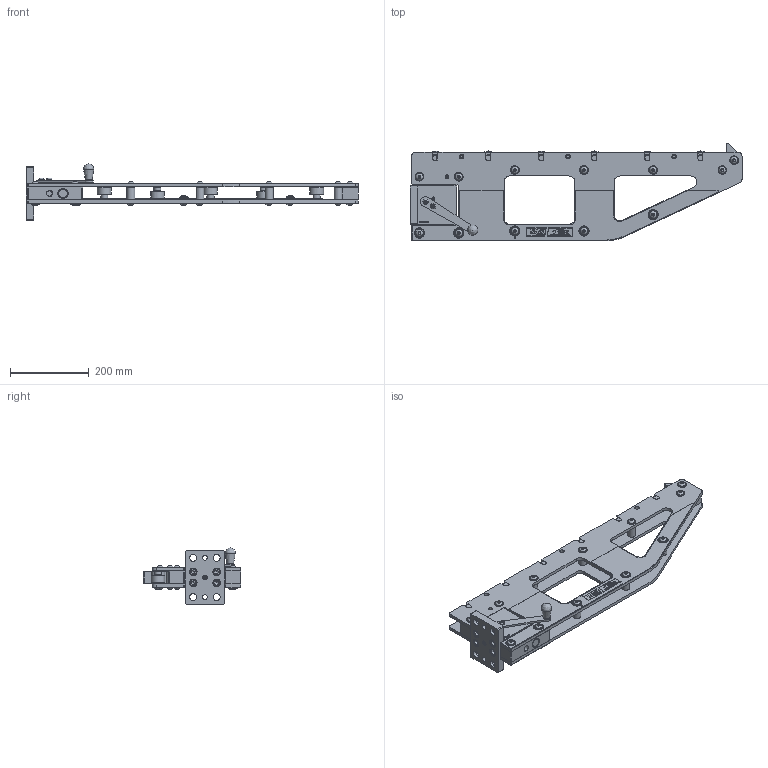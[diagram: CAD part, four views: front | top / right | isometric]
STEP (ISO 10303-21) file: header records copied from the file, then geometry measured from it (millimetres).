
FILE_DESCRIPTION(/* description */ ('CONSOLE PLATE LEFT'),/* implementation_level */ '2;1');
FILE_NAME(/* name */ 'C:\Users\jaccow\AppData\Local\Temp\Cadac\NetworkPub\step\FB656-950.iam.stp',/* time_stamp */ '2017-12-14T12:24:39+01:00',/* author */ ('Yue'),/* organization */ (''),/* preprocessor_version */ 'ST-DEVELOPER v16.1',/* originating_system */ 'Autodesk Inventor 2016',/* authorisation */ '');
FILE_SCHEMA (('AUTOMOTIVE_DESIGN { 1 0 10303 214 3 1 1 }'));
Products named in the file (35): FB660-101; FB622-186; FB830-690; FB626-690; FB620-044; FB621-104; FB627-104; DQ1504-281; FB662-101; CAE1100-1081A; DQ1397-120; FB843-026; FB844-026; CCE1020-028-9A; FB827-298; FB658-950; FB631-101; FB829-690; CCA1225-0281A; FB633-061; FB632-070; PP0306-070; CBA821-0281B; CAA1231-0612C; PP0307-155; PP0308-155; PP0309-110; PP0304-108; PP0378-108; PP0377-130; FB636-950; PP0311-071; FB653-104; CCA615-0285C; FB656-950
Assembly tree (93 placements, depth 3):
  FB656-950
    FB658-950
      FB660-101  x2
      FB622-186  x7
      FB830-690
      FB626-690
      FB620-044
      FB621-104  x5
      FB627-104  x6
      DQ1504-281  x6
      FB662-101
      CAE1100-1081A  x3
      DQ1397-120  x3
      FB843-026
      FB844-026
      CCE1020-028-9A  x27
      FB827-298
    FB636-950
      FB631-101
      FB829-690
      CCA1225-0281A  x4
      FB633-061
      FB632-070
      PP0306-070
      CBA821-0281B
      CAA1231-0612C
      PP0307-155  x2
      PP0308-155
      PP0309-110
      PP0304-108  x2
      PP0378-108  x2
      PP0377-130  x2
    PP0311-071
    FB653-104
    CCA615-0285C  x2
Bounding box: 844 x 248.57 x 142.5 mm (x, y, z)
Volume: 3355083 mm3; surface area: 1123469.2 mm2
Topology: 117 solids, 117 shells, 4077 faces, 9939 edges, 6480 vertices
Faces by surface type: plane 2256, bspline 893, cylinder 463, cone 354, torus 110, sphere 1
Full cylindrical faces by diameter (mm): 1.215 x6, 2.4 x6, 3 x1, 4.773 x2, 4.917 x4, 4.918 x1, 6 x4, 6.4 x1, 6.647 x1, 7.42 x2, 8 x5, 8.1 x1, 8.376 x15, 8.4 x4, 8.5 x1, 10 x44, 10.106 x4, 10.5 x3, 11 x3, 11.5 x8, 12 x6, 12.1 x3, 13 x2, 13.5 x4, 15 x14, 15.425 x1, 15.95 x5, 16 x15, 16.1 x1, 17 x2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
Entity records: 96461 total; most frequent: CARTESIAN_POINT 29985, ORIENTED_EDGE 14720, DIRECTION 10432, EDGE_CURVE 7351, LINE 5028, VECTOR 5028, VERTEX_POINT 4996, EDGE_LOOP 3528
